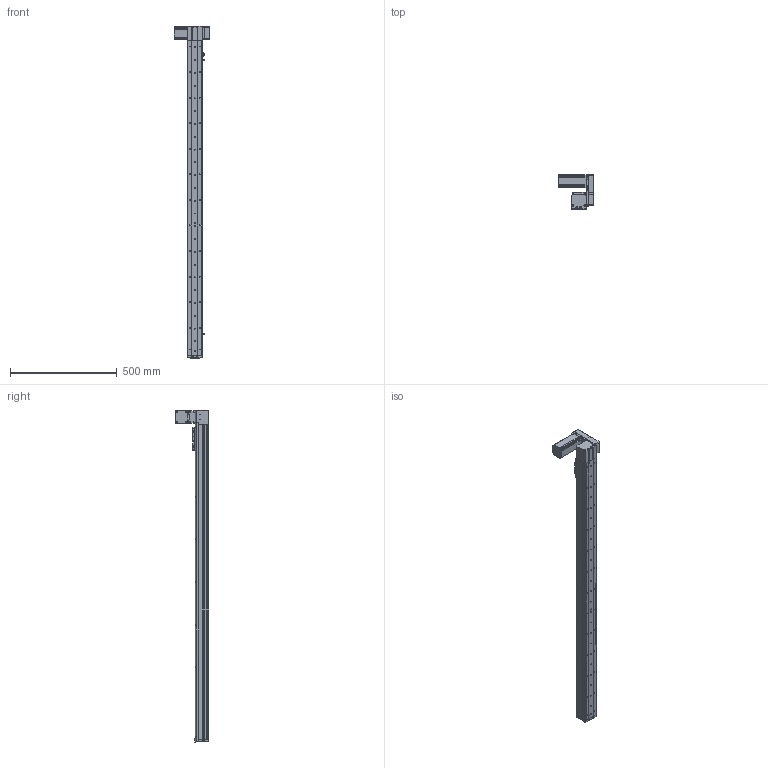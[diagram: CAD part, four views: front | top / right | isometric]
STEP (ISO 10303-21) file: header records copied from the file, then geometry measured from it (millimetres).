
FILE_DESCRIPTION (( 'STEP AP214' ), '1' );
FILE_NAME ('KSD68BS-S1300-MLU-CR.STEP', '2019-08-27T08:33:46', ( '微软用户' ), ( '微软中国' ), 'SwSTEP 2.0', 'SolidWorks 2014', '' );
FILE_SCHEMA (( 'AUTOMOTIVE_DESIGN' ));
Length unit declared in the file: millimetre
Products named in the file (14): 感应片68宽全封闭; U倰嫖萇EEㄜSX672; 台达ECMA－C20604AS伺服电机（400W); KSD68BS 1300行程底板全封闭; KSD68BS-S1300-MLU-CR; 68遵裔啣揤啣1; 68宽单导轨全封闭丝杆传动安装板1防护罩; KSD68BS 1300行程侧板全封闭; 68宽单导轨全封闭同步带端板; 68单导轨全封闭同步带电机座左; KSD68BS 1300行程盖板全封闭; 68单导轨全封闭同步带安装板; 悵誘欶奻狟殏; 68宽马达安装板连板上折同步带
Assembly tree (16 placements, depth 2):
  KSD68BS-S1300-MLU-CR
    KSD68BS 1300行程底板全封闭
    台达ECMA－C20604AS伺服电机（400W)
    U倰嫖萇EEㄜSX672  x3
    感应片68宽全封闭
    68宽马达安装板连板上折同步带
    悵誘欶奻狟殏
    68单导轨全封闭同步带安装板
    68单导轨全封闭同步带电机座左
    68宽单导轨全封闭同步带端板
    KSD68BS 1300行程侧板全封闭  x2
    68宽单导轨全封闭丝杆传动安装板1防护罩
    KSD68BS 1300行程盖板全封闭
    68遵裔啣揤啣1
Bounding box: 167.2 x 159.5 x 1558.1 mm (x, y, z)
Volume: 2938328 mm3; surface area: 1161233 mm2
Topology: 17 solids, 17 shells, 1554 faces, 4462 edges, 2848 vertices
Faces by surface type: cylinder 756, plane 622, cone 176
Entity records: 50687 total; most frequent: CARTESIAN_POINT 8806, DIRECTION 7554, ORIENTED_EDGE 7230, EDGE_CURVE 3615, AXIS2_PLACEMENT_3D 2744, VERTEX_POINT 2370, VECTOR 2066, LINE 2066
